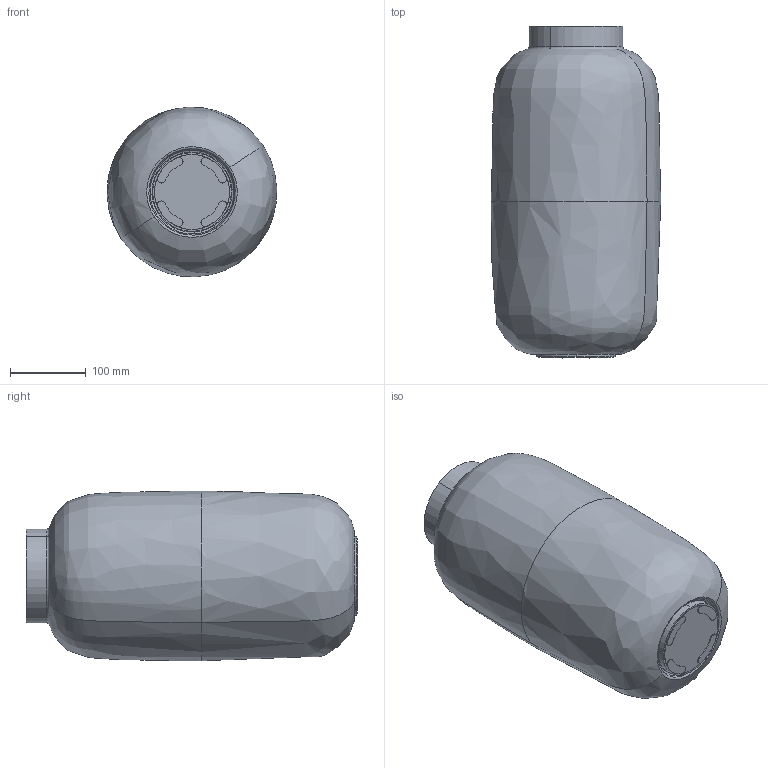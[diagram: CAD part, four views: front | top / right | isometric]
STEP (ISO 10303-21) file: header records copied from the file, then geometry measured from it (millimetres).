
FILE_DESCRIPTION (( 'STEP AP203' ), '1' );
FILE_NAME ('210_2_C_ME_3D.STEP', '2022-08-24T06:39:59', ( '' ), ( '' ), 'SwSTEP 2.0', 'SolidWorks 2022', '' );
FILE_SCHEMA (( 'CONFIG_CONTROL_DESIGN' ));
Length unit declared in the file: millimetre
Products named in the file (1): 210_2_C_ME_3D
Bounding box: 223.66 x 438.04 x 223.66 mm (x, y, z)
Volume: 1623067.1 mm3; surface area: 628047.6 mm2
Topology: 2 solids, 2 shells, 63 faces, 152 edges, 96 vertices
Faces by surface type: cylinder 28, torus 12, plane 11, bspline 8, cone 4
Entity records: 2941 total; most frequent: CARTESIAN_POINT 1336, DIRECTION 364, ORIENTED_EDGE 304, AXIS2_PLACEMENT_3D 164, EDGE_CURVE 152, CIRCLE 108, VERTEX_POINT 96, EDGE_LOOP 68
